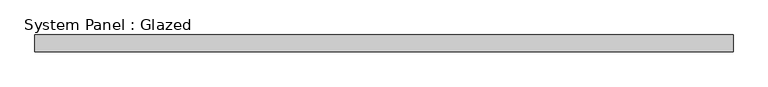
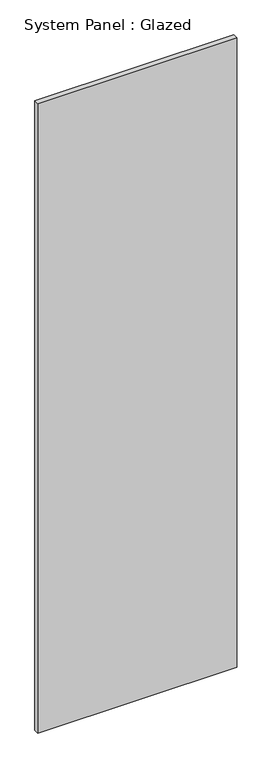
"""IFC4 building model written with IfcOpenShell, lengths in millimetres: plate geometry, System Panel : Glazed."""

from ifc_helpers import new_model, si_unit, origin, origin_with_axes, place, context, project, spatial, polyline, outline, extrude, source, transform, mapped, element, save


def system_panel_glazed_6110bdf2(model_context):
    return source(origin(), model_context, "Body", "SweptSolid", [
        extrude(outline(polyline([(523.4859492, 24.5), (-523.4859492, 24.5), (-523.4859492, 49.5), (523.4859492, 49.5), (523.4859492, 24.5)])), origin_with_axes(), (0.0, 0.0, 1.0), 3500.0),
    ])


if __name__ == "__main__":
    model = new_model("IFC4")
    model_context = context("Model", 3, world=origin())
    ifc_project = project(units=[si_unit("LENGTHUNIT", "METRE", prefix="MILLI")], contexts=[model_context])
    site = spatial("IfcSite", under=ifc_project)
    building = spatial("IfcBuilding", under=site)
    placement = place(None, origin())
    system_panel_glazed_shape = system_panel_glazed_6110bdf2(model_context)
    element("IfcPlate", 1, ObjectType="System Panel : Glazed", at=placement, inside=building, context=model_context, shape_type="MappedRepresentation", body=[
        mapped(system_panel_glazed_shape, transform((0.0, 0.0, 0.0), x_axis=(1.0, 0.0, 0.0), y_axis=(0.0, 1.0, 0.0), z_axis=(0.0, 0.0, 1.0))),
    ])
    save(model, "model.ifc")
